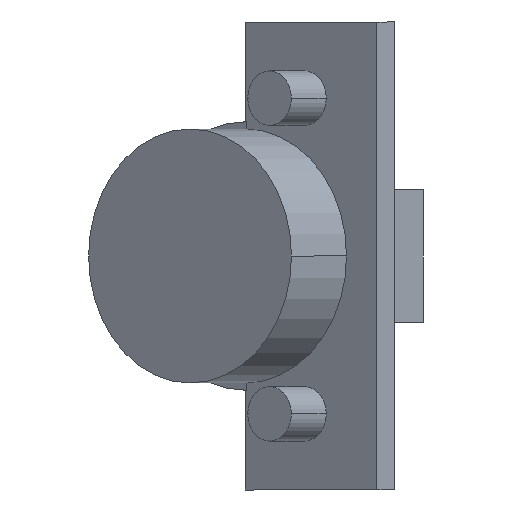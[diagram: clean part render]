
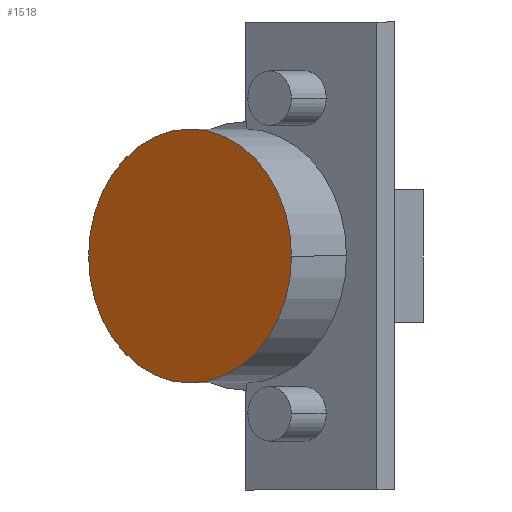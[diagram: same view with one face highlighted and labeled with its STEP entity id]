
A CAD part, front view. The second image highlights one B-rep face of the part: STEP entity #1518.
In plain terms, the highlighted planar face has unit normal (-0.602, -0.799, 0).
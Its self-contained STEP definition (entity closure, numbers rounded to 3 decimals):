
#10 = VERTEX_POINT ( 'NONE', #830 ) ;
#12 = VERTEX_POINT ( 'NONE', #832 ) ;
#67 = EDGE_LOOP ( 'NONE', ( #220, #219 ) ) ;
#219 = ORIENTED_EDGE ( 'NONE', *, *, #1692, .T. ) ;
#220 = ORIENTED_EDGE ( 'NONE', *, *, #1670, .T. ) ;
#413 = FACE_OUTER_BOUND ( 'NONE', #67, .T. ) ;
#663 = CIRCLE ( 'NONE', #1794, 17.5 ) ;
#703 = CIRCLE ( 'NONE', #1801, 17.5 ) ;
#830 = CARTESIAN_POINT ( 'NONE',  ( -2.559, 0.469, 0. ) ) ;
#832 = CARTESIAN_POINT ( 'NONE',  ( 25.393, -20.595, 0. ) ) ;
#967 = CARTESIAN_POINT ( 'NONE',  ( 11.417, -10.063, 0. ) ) ;
#968 = PLANE ( 'NONE',  #1736 ) ;
#970 = DIRECTION ( 'NONE',  ( -0.602, -0.799, 0. ) ) ;
#971 = DIRECTION ( 'NONE',  ( 0.799, -0.602, 0. ) ) ;
#1371 = CARTESIAN_POINT ( 'NONE',  ( 11.417, -10.063, 0. ) ) ;
#1372 = DIRECTION ( 'NONE',  ( -0.602, -0.799, 0. ) ) ;
#1373 = DIRECTION ( 'NONE',  ( 0.799, -0.602, 0. ) ) ;
#1413 = CARTESIAN_POINT ( 'NONE',  ( 11.417, -10.063, 0. ) ) ;
#1422 = DIRECTION ( 'NONE',  ( -0.602, -0.799, 0. ) ) ;
#1423 = DIRECTION ( 'NONE',  ( 0.799, -0.602, 0. ) ) ;
#1518 = ADVANCED_FACE ( 'NONE', ( #413 ), #968, .T. ) ;
#1670 = EDGE_CURVE ( 'NONE', #10, #12, #663, .T. ) ;
#1692 = EDGE_CURVE ( 'NONE', #12, #10, #703, .T. ) ;
#1736 = AXIS2_PLACEMENT_3D ( 'NONE', #967, #970, #971 ) ;
#1794 = AXIS2_PLACEMENT_3D ( 'NONE', #1371, #1372, #1373 ) ;
#1801 = AXIS2_PLACEMENT_3D ( 'NONE', #1413, #1422, #1423 ) ;
